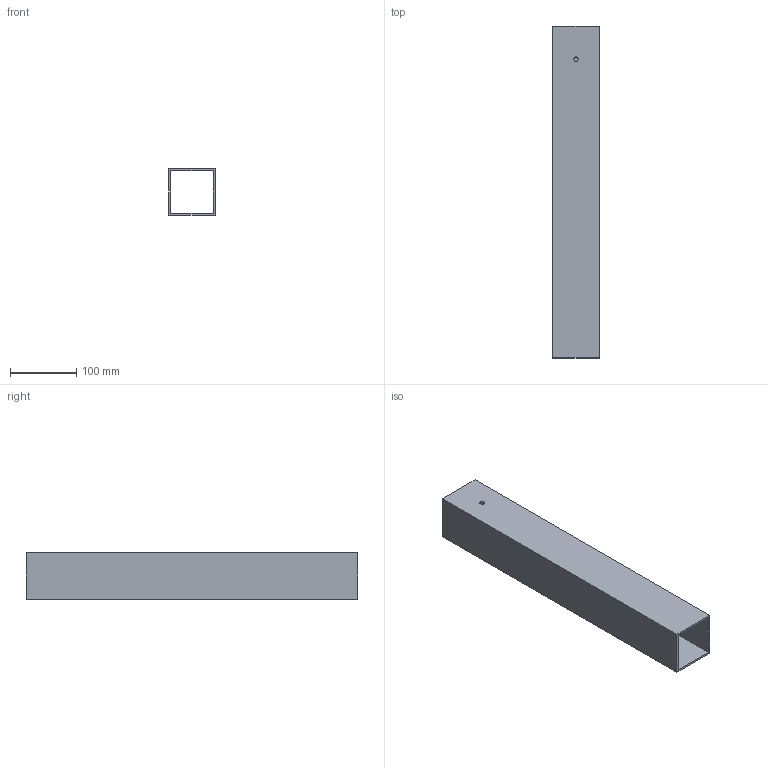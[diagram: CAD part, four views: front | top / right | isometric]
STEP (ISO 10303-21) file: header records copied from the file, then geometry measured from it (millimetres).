
FILE_DESCRIPTION (( 'STEP AP214' ), '1' );
FILE_NAME ('FEFU 500.step', '2017-04-05T08:04:40', ( '' ), ( '' ), 'SwSTEP 2.0', 'SolidWorks 2015', '' );
FILE_SCHEMA (( 'AUTOMOTIVE_DESIGN' ));
Length unit declared in the file: millimetre
Products named in the file (1): FEFU 500
Bounding box: 70 x 500 x 70 mm (x, y, z)
Volume: 401782.1 mm3; surface area: 269590.9 mm2
Topology: 1 solids, 1 shells, 14 faces, 36 edges, 24 vertices
Faces by surface type: plane 10, cylinder 4
Entity records: 518 total; most frequent: CARTESIAN_POINT 75, DIRECTION 74, ORIENTED_EDGE 72, EDGE_CURVE 36, LINE 28, VECTOR 28, VERTEX_POINT 24, AXIS2_PLACEMENT_3D 23
